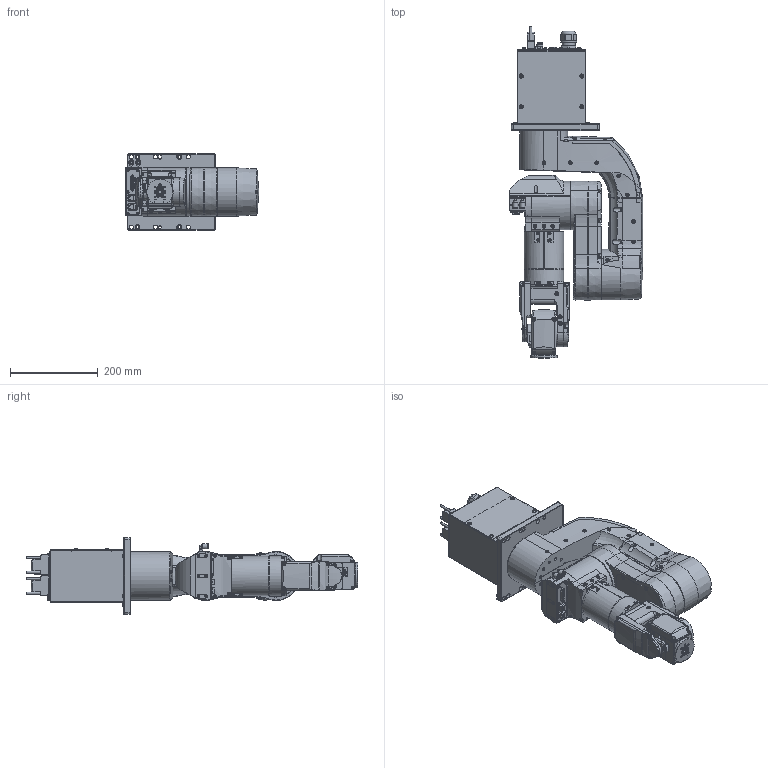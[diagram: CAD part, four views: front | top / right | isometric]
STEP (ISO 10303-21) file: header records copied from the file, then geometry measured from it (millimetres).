
FILE_DESCRIPTION( ( 'STEP AP214' ), ' ' );
FILE_NAME( 'C:/Users/hkitajima/Desktop/N2-A450S_SR.stp', '2016-07-07T05:37:34', ( '' ), ( '' ), ' ', 'PARTsolutions', ' ' );
FILE_SCHEMA( ( 'AUTOMOTIVE_DESIGN { 1 0 10303 214 1 1 1 1 }' ) );
Length unit declared in the file: millimetre
Products named in the file (8): N2-A450S/SR; _N2-A450S/SR_J1; _N2-A450S/SR_J2; _N2-A450S/SR_J3; _N2-A450S/SR_J4; _N2-A450S/SR_J5; _N2-A450S/SR_J6; _N2-A450S/SR_Flange
Assembly tree (7 placements, depth 2):
  N2-A450S/SR
    _N2-A450S/SR_J1
    _N2-A450S/SR_J2
    _N2-A450S/SR_J3
    _N2-A450S/SR_J4
    _N2-A450S/SR_J5
    _N2-A450S/SR_J6
    _N2-A450S/SR_Flange
Bounding box: 304 x 755 x 175 mm (x, y, z)
Volume: 12364442.4 mm3; surface area: 851280.5 mm2
Topology: 7 solids, 7 shells, 3343 faces, 8618 edges, 5616 vertices
Faces by surface type: plane 2318, cylinder 603, cone 300, torus 64, sphere 56, bspline 2
Full cylindrical faces by diameter (mm): 1 x15, 2.013 x2, 2.05 x1, 3.242 x44, 3.3 x5, 5 x9, 5.5 x35, 6 x6, 6.3 x49, 6.5 x14, 6.8 x12, 7 x31, 8 x15, 8.2 x6, 9 x18, 10 x6, 11 x4, 11.5 x4, 14 x2, 20 x4, 25 x2, 30 x4, 33 x2, 34 x2, 36 x2, 38 x1, 39 x1, 44 x1, 45 x1, 52.5 x1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
Entity records: 128712 total; most frequent: CARTESIAN_POINT 22487, DIRECTION 16419, ORIENTED_EDGE 15688, EDGE_CURVE 7844, AXIS2_PLACEMENT_3D 5697, VERTEX_POINT 5454, LINE 5025, VECTOR 5025
